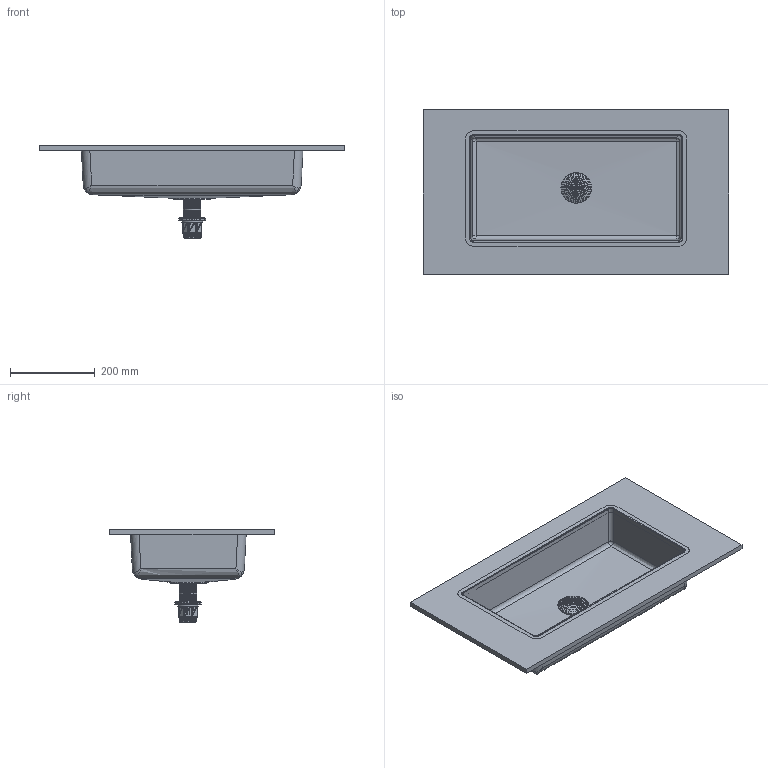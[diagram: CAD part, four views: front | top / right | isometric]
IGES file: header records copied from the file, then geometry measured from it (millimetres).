
Start section: Data from Parasolid IGES Translator 19.0.9, Copyright(c) 2006 Siemens PL M Software. All Rights Reserved.
Global section: file name: noorth-top-H 1,2 D 38,8 W 72_6526.igs; native system: By Siemens PLM Incorporated; preprocessor: XPlus GENERIC/IGES 19.0.9; author: Noname; organization: Noname; date: 20200603.084422; units: metre
Bounding box: 720 x 388 x 218.72 mm (x, y, z)
Volume: 5712339.4 mm3; surface area: 993779.2 mm2
Topology: 2 solids, 2 shells, 11700 faces, 35081 edges, 34997 vertices
Faces by surface type: extrusion 11618, bspline 32, plane 25, cylinder 22, torus 2, cone 1
Full cylindrical faces by diameter (mm): 46 x1, 86 x1
